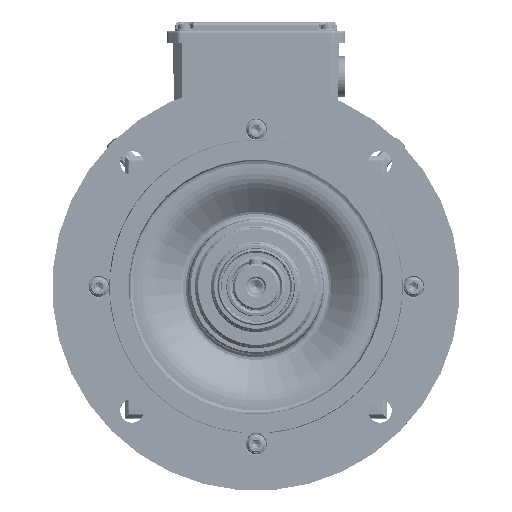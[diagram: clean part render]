
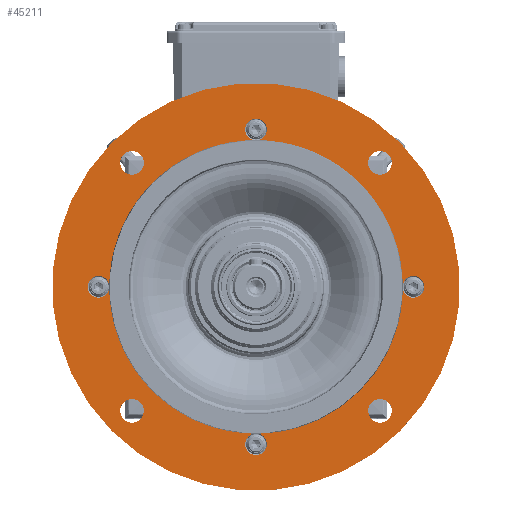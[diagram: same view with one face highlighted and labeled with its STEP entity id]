
A CAD part, top view. The second image highlights one B-rep face of the part: STEP entity #45211.
In plain terms, the highlighted planar face has unit normal (0, 0, 1).
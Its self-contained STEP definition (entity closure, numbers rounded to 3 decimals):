
#42934=PLANE('',#181750);
#45211=ADVANCED_FACE('',(#60736,#60737,#60738,#60739,#60740,#60741),#42934,
 .T.);
#60736=FACE_BOUND('',#62623,.T.);
#60737=FACE_BOUND('',#62624,.T.);
#60738=FACE_BOUND('',#62625,.T.);
#60739=FACE_BOUND('',#62626,.T.);
#60740=FACE_BOUND('',#62627,.T.);
#60741=FACE_BOUND('',#62628,.T.);
#62623=EDGE_LOOP('',(#75681));
#62624=EDGE_LOOP('',(#75682));
#62625=EDGE_LOOP('',(#75683));
#62626=EDGE_LOOP('',(#75684));
#62627=EDGE_LOOP('',(#75685,#75686,#75687,#75688,#75689,#75690,#75691,#75692));
#62628=EDGE_LOOP('',(#75693));
#75681=ORIENTED_EDGE('',*,*,#144501,.F.);
#75682=ORIENTED_EDGE('',*,*,#144502,.F.);
#75683=ORIENTED_EDGE('',*,*,#144503,.F.);
#75684=ORIENTED_EDGE('',*,*,#144504,.F.);
#75685=ORIENTED_EDGE('',*,*,#144505,.T.);
#75686=ORIENTED_EDGE('',*,*,#144506,.T.);
#75687=ORIENTED_EDGE('',*,*,#144507,.T.);
#75688=ORIENTED_EDGE('',*,*,#144508,.T.);
#75689=ORIENTED_EDGE('',*,*,#144509,.T.);
#75690=ORIENTED_EDGE('',*,*,#144510,.T.);
#75691=ORIENTED_EDGE('',*,*,#144511,.T.);
#75692=ORIENTED_EDGE('',*,*,#144512,.T.);
#75693=ORIENTED_EDGE('',*,*,#144513,.T.);
#128823=VERTEX_POINT('',#250666);
#128824=VERTEX_POINT('',#250668);
#128825=VERTEX_POINT('',#250670);
#128826=VERTEX_POINT('',#250672);
#128827=VERTEX_POINT('',#250674);
#128828=VERTEX_POINT('',#250675);
#128829=VERTEX_POINT('',#250677);
#128830=VERTEX_POINT('',#250679);
#128831=VERTEX_POINT('',#250681);
#128832=VERTEX_POINT('',#250683);
#128833=VERTEX_POINT('',#250685);
#128834=VERTEX_POINT('',#250687);
#128835=VERTEX_POINT('',#250690);
#144501=EDGE_CURVE('',#128823,#128823,#171107,.T.);
#144502=EDGE_CURVE('',#128824,#128824,#171108,.T.);
#144503=EDGE_CURVE('',#128825,#128825,#171109,.T.);
#144504=EDGE_CURVE('',#128826,#128826,#171110,.T.);
#144505=EDGE_CURVE('',#128827,#128828,#171111,.T.);
#144506=EDGE_CURVE('',#128828,#128829,#171112,.T.);
#144507=EDGE_CURVE('',#128829,#128830,#171113,.T.);
#144508=EDGE_CURVE('',#128830,#128831,#171114,.T.);
#144509=EDGE_CURVE('',#128831,#128832,#171115,.T.);
#144510=EDGE_CURVE('',#128832,#128833,#171116,.T.);
#144511=EDGE_CURVE('',#128833,#128834,#171117,.T.);
#144512=EDGE_CURVE('',#128834,#128827,#171118,.T.);
#144513=EDGE_CURVE('',#128835,#128835,#171119,.T.);
#171107=CIRCLE('',#181737,7.25);
#171108=CIRCLE('',#181738,7.25);
#171109=CIRCLE('',#181739,7.25);
#171110=CIRCLE('',#181740,7.25);
#171111=CIRCLE('',#181741,90.);
#171112=CIRCLE('',#181742,6.65);
#171113=CIRCLE('',#181743,90.);
#171114=CIRCLE('',#181744,6.65);
#171115=CIRCLE('',#181745,90.);
#171116=CIRCLE('',#181746,6.65);
#171117=CIRCLE('',#181747,90.);
#171118=CIRCLE('',#181748,6.65);
#171119=CIRCLE('',#181749,125.);
#181737=AXIS2_PLACEMENT_3D('',#250665,#202016,#202017);
#181738=AXIS2_PLACEMENT_3D('',#250667,#202018,#202019);
#181739=AXIS2_PLACEMENT_3D('',#250669,#202020,#202021);
#181740=AXIS2_PLACEMENT_3D('',#250671,#202022,#202023);
#181741=AXIS2_PLACEMENT_3D('',#250673,#202024,#202025);
#181742=AXIS2_PLACEMENT_3D('',#250676,#202026,#202027);
#181743=AXIS2_PLACEMENT_3D('',#250678,#202028,#202029);
#181744=AXIS2_PLACEMENT_3D('',#250680,#202030,#202031);
#181745=AXIS2_PLACEMENT_3D('',#250682,#202032,#202033);
#181746=AXIS2_PLACEMENT_3D('',#250684,#202034,#202035);
#181747=AXIS2_PLACEMENT_3D('',#250686,#202036,#202037);
#181748=AXIS2_PLACEMENT_3D('',#250688,#202038,#202039);
#181749=AXIS2_PLACEMENT_3D('',#250689,#202040,#202041);
#181750=AXIS2_PLACEMENT_3D('',#250691,#202042,#202043);
#202016=DIRECTION('',(0.,0.,1.));
#202017=DIRECTION('',(-0.707,-0.707,0.));
#202018=DIRECTION('',(0.,0.,1.));
#202019=DIRECTION('',(0.707,-0.707,0.));
#202020=DIRECTION('',(0.,0.,1.));
#202021=DIRECTION('',(0.707,0.707,0.));
#202022=DIRECTION('',(0.,0.,1.));
#202023=DIRECTION('',(-0.707,0.707,0.));
#202024=DIRECTION('',(0.,0.,-1.));
#202025=DIRECTION('',(-0.707,0.707,0.));
#202026=DIRECTION('',(0.,0.,-1.));
#202027=DIRECTION('',(0.707,-0.707,0.));
#202028=DIRECTION('',(0.,0.,-1.));
#202029=DIRECTION('',(-0.707,0.707,0.));
#202030=DIRECTION('',(0.,0.,-1.));
#202031=DIRECTION('',(0.707,-0.707,0.));
#202032=DIRECTION('',(0.,0.,-1.));
#202033=DIRECTION('',(-0.707,0.707,0.));
#202034=DIRECTION('',(0.,0.,-1.));
#202035=DIRECTION('',(0.707,-0.707,0.));
#202036=DIRECTION('',(0.,0.,-1.));
#202037=DIRECTION('',(-0.707,0.707,0.));
#202038=DIRECTION('',(0.,0.,-1.));
#202039=DIRECTION('',(0.707,-0.707,0.));
#202040=DIRECTION('',(0.,0.,1.));
#202041=DIRECTION('',(-0.707,0.707,0.));
#202042=DIRECTION('',(0.,0.,1.));
#202043=DIRECTION('',(0.707,-0.707,0.));
#250665=CARTESIAN_POINT('',(76.014,-76.014,60.));
#250666=CARTESIAN_POINT('',(70.887,-81.141,60.));
#250667=CARTESIAN_POINT('',(76.014,76.014,60.));
#250668=CARTESIAN_POINT('',(81.141,70.887,60.));
#250669=CARTESIAN_POINT('',(-76.014,76.014,60.));
#250670=CARTESIAN_POINT('',(-70.887,81.141,60.));
#250671=CARTESIAN_POINT('',(-76.014,-76.014,60.));
#250672=CARTESIAN_POINT('',(-81.141,-70.887,60.));
#250673=CARTESIAN_POINT('',(0.,0.,
60.));
#250674=CARTESIAN_POINT('',(1.356,89.99,60.));
#250675=CARTESIAN_POINT('',(89.99,1.356,60.));
#250676=CARTESIAN_POINT('',(96.5,0.,60.));
#250677=CARTESIAN_POINT('',(89.99,-1.356,60.));
#250678=CARTESIAN_POINT('',(0.,0.,
60.));
#250679=CARTESIAN_POINT('',(1.356,-89.99,60.));
#250680=CARTESIAN_POINT('',(0.,-96.5,60.));
#250681=CARTESIAN_POINT('',(-1.356,-89.99,60.));
#250682=CARTESIAN_POINT('',(0.,0.,
60.));
#250683=CARTESIAN_POINT('',(-89.99,-1.356,60.));
#250684=CARTESIAN_POINT('',(-96.5,0.,60.));
#250685=CARTESIAN_POINT('',(-89.99,1.356,60.));
#250686=CARTESIAN_POINT('',(0.,0.,
60.));
#250687=CARTESIAN_POINT('',(-1.356,89.99,60.));
#250688=CARTESIAN_POINT('',(0.,96.5,60.));
#250689=CARTESIAN_POINT('',(0.,0.,60.));
#250690=CARTESIAN_POINT('',(-88.388,88.388,60.));
#250691=CARTESIAN_POINT('',(0.,0.,
60.));
